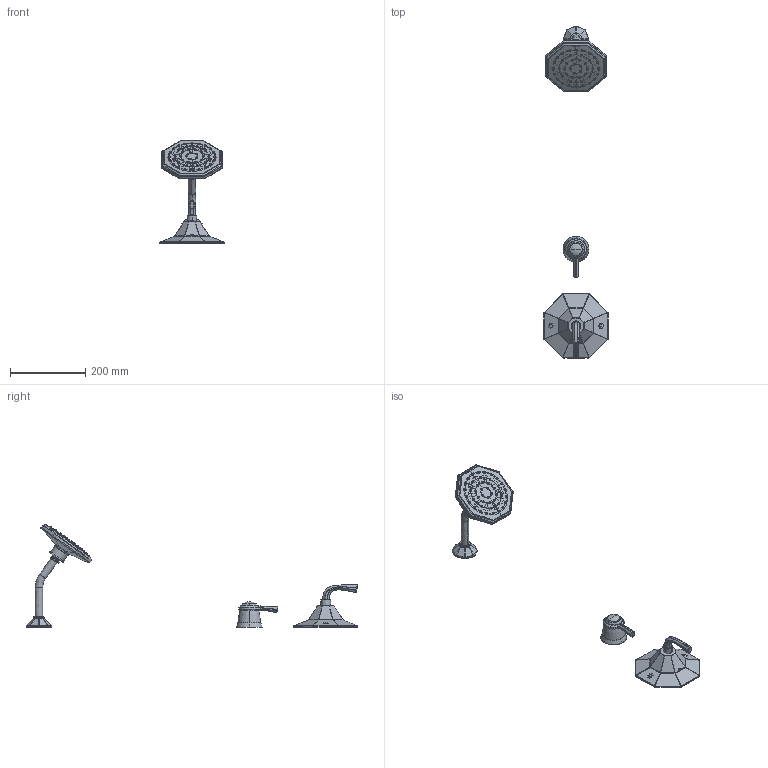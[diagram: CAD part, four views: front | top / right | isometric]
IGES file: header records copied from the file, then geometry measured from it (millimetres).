
Start section:  PTC IGES file: sku_ts342.igs
Global section: file name: sku_ts342.igs; native system: Pro/ENGINEER by Parametric Technology Corporation; preprocessor: 2006460; author: 9dutterb; organization: Unknown; date: 20071106.114613; units: inch
Bounding box: 171.17 x 881.73 x 272.22 mm (x, y, z)
Surface area: 204317.5 mm2 (no closed solid volume)
Topology: 0 solids, 0 shells, 660 faces, 3533 edges, 3531 vertices
Faces by surface type: revolution 341, bspline 319
